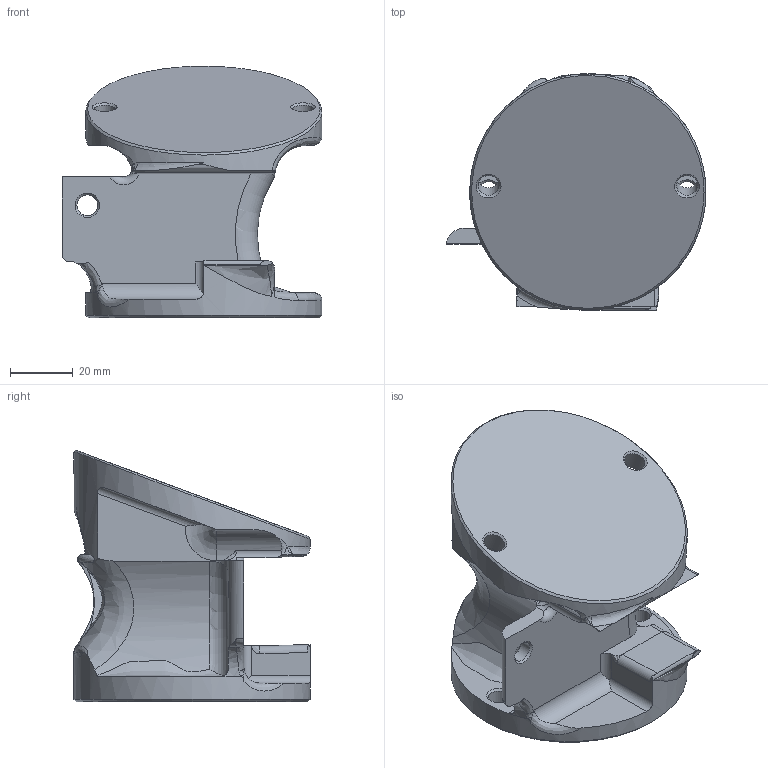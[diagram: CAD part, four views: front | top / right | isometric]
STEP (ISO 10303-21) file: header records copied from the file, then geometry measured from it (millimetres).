
FILE_DESCRIPTION(/* description */ (''),/* implementation_level */ '2;1');
FILE_NAME(/* name */ 'LabCobot_Tool_Organic.step',/* time_stamp */ '2026-08-28T16:54:53+02:00',/* author */ (''),/* organization */ (''),/* preprocessor_version */ 'ST-DEVELOPER v20.1',/* originating_system */ 'Autodesk Translation Framework v15.8.0.0',/* authorisation */ '');
FILE_SCHEMA (('AUTOMOTIVE_DESIGN { 1 0 10303 214 3 1 1 }'));
Length unit declared in the file: millimetre
Products named in the file (1): LabCobot Tool - Organic
Bounding box: 82.5 x 75 x 79.92 mm (x, y, z)
Volume: 158134.5 mm3; surface area: 32071.1 mm2
Topology: 1 solids, 1 shells, 161 faces, 450 edges, 271 vertices
Faces by surface type: bspline 71, cylinder 36, plane 33, cone 10, torus 9, sphere 2
Full cylindrical faces by diameter (mm): 6.6 x3, 6.7 x2, 75 x2
Entity records: 9009 total; most frequent: CARTESIAN_POINT 5520, ORIENTED_EDGE 864, DIRECTION 501, EDGE_CURVE 432, VERTEX_POINT 271, B_SPLINE_CURVE_WITH_KNOTS 225, AXIS2_PLACEMENT_3D 203, EDGE_LOOP 169
